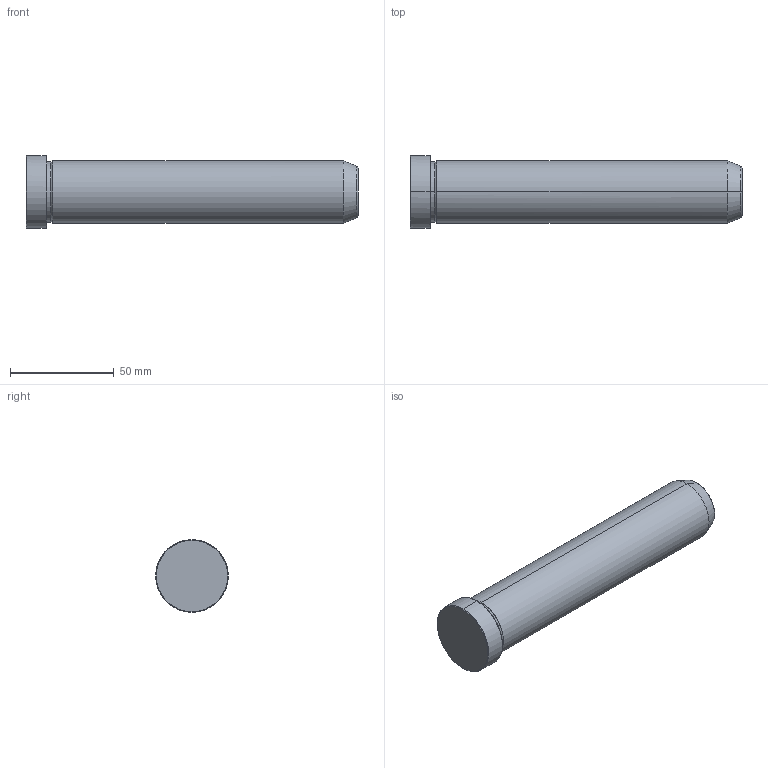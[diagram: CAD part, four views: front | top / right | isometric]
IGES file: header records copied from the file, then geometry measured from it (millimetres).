
Start section: START RECORD GO HERE.
Global section: file name: 549-30X180.igs; native system: DASSAULT SYSTEMES CATIA V5 R20 - www.3ds.com; preprocessor: CATIA Version 5 Release 20 ; author: Utente; organization: NB04-ASUS; date: 20211217.153946; units: millimetre
Bounding box: 160 x 35 x 35 mm (x, y, z)
Surface area: 16903.9 mm2 (no closed solid volume)
Topology: 0 solids, 0 shells, 19 faces, 112 edges, 112 vertices
Faces by surface type: revolution 16, plane 3
